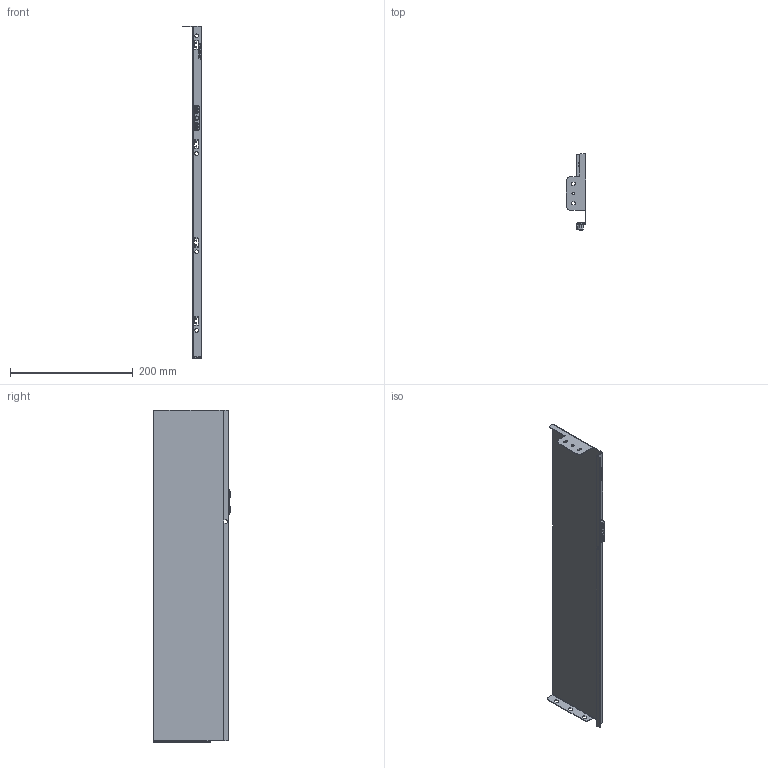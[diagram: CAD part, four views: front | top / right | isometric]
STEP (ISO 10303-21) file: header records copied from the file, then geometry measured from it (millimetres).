
FILE_DESCRIPTION (( 'STEP AP203' ), '1' );
FILE_NAME ('HL12550R.STEP', '2021-07-31T00:40:03', ( 'Users' ), ( 'Microsoft' ), 'SwSTEP 2.0', 'SolidWorks 2018', '' );
FILE_SCHEMA (( 'CONFIG_CONTROL_DESIGN' ));
Length unit declared in the file: millimetre
Products named in the file (1): HL12550R
Bounding box: 32.6 x 124.7 x 541.2 mm (x, y, z)
Volume: 93762.8 mm3; surface area: 155269.6 mm2
Topology: 1 solids, 1 shells, 449 faces, 1227 edges, 796 vertices
Faces by surface type: plane 169, cylinder 167, bspline 56, torus 55, cone 2
Entity records: 17337 total; most frequent: CARTESIAN_POINT 5838, ORIENTED_EDGE 2446, DIRECTION 2346, EDGE_CURVE 1223, AXIS2_PLACEMENT_3D 845, VERTEX_POINT 796, LINE 656, VECTOR 656
